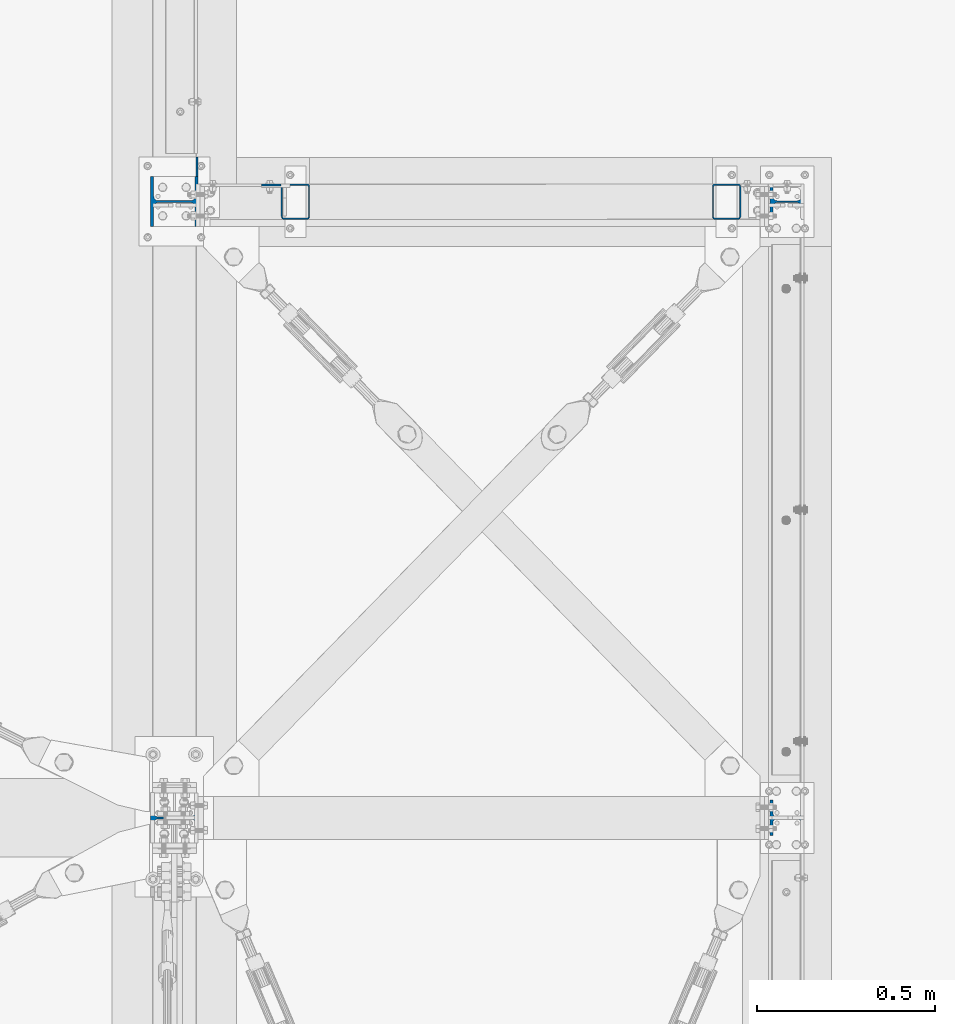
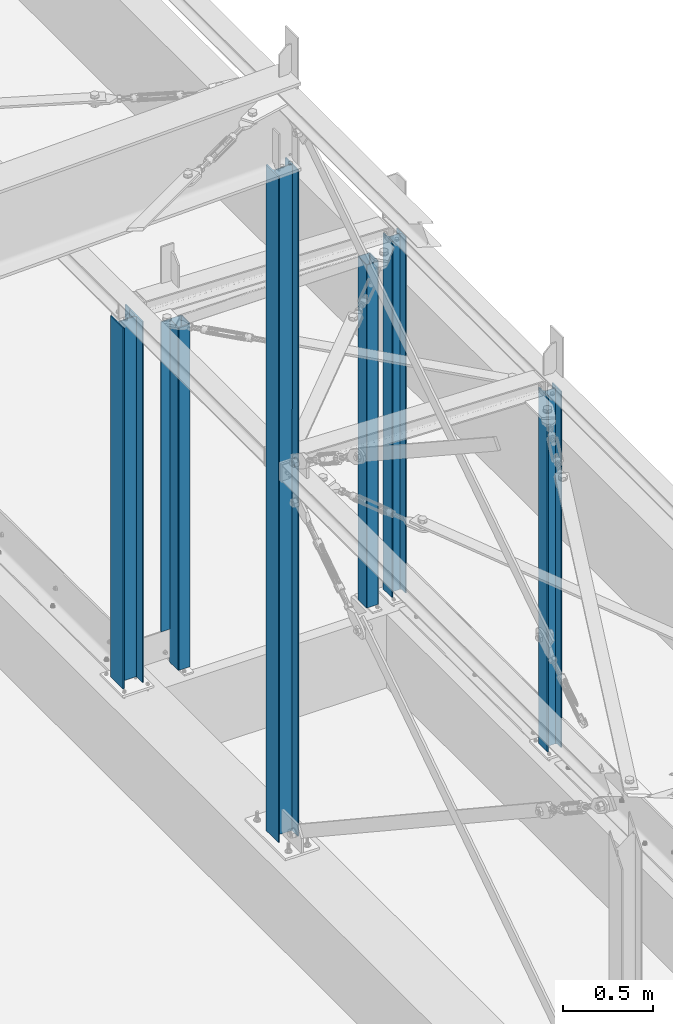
# One storey, part 5 of 476: 8 columns, 4 openings.
"""IFC2X3 building model written with IfcOpenShell, lengths in millimetres."""

from ifc_helpers import new_model, entity, si_unit, converted_unit, frame, origin, origin_with_axes, origin_2d, origin_2d_with_axis, place, context, project, spatial, rectangle, hollow_rectangle, circle, i_section, extrude, clip, halfspace, material, element, save


model = new_model("IFC2X3")

# Units and contexts
model_context = context("Model", 3, precision=1e-09, world=origin_with_axes())
ifc_project = project(units=[si_unit("LENGTHUNIT", "METRE", prefix="MILLI"), si_unit("AREAUNIT", "SQUARE_METRE"), si_unit("VOLUMEUNIT", "CUBIC_METRE"), converted_unit("PLANEANGLEUNIT", "DEGREE", entity("IfcPlaneAngleMeasure", 0.01745329), si_unit("PLANEANGLEUNIT", "RADIAN"), dimensions=[0, 0, 0, 0, 0, 0, 0])], contexts=[model_context])

# Site, building, storey
site_placement = place(None, origin_with_axes())
site = spatial("IfcSite", under=ifc_project, at=site_placement, Name="mKR Teilneubau & Sanierung BA1 - Ostfildern", CompositionType="ELEMENT")
building_placement = place(site_placement, origin_with_axes())
building = spatial("IfcBuilding", under=site, at=building_placement, Name="Struktur 1", CompositionType="ELEMENT")
storey_placement = place(building_placement, origin_with_axes())
storey = spatial("IfcBuildingStorey", under=building, at=storey_placement, Name="Default Storey", CompositionType="ELEMENT", Elevation=0.0)

# Column
ifc_material = material(Name="S235JR")
column_1_placement = place(None, frame((22238.107764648, -4171.67387897, 750.0), z_axis=(0.0, 0.0, 1.0), x_axis=(0.0, -1.0, 0.0)))
element("IfcColumn", 1, at=column_1_placement, inside=storey, material=ifc_material, Name="-", ObjectType="-", context=model_context, shape_type="SweptSolid", body=[
    extrude(rectangle(XDim=6.0, YDim=55.0, at=origin_2d()), origin(), (0.0, 0.0, 1.0), 2105.0),
])

# Column, openings
column_2_placement = place(None, frame((21965.608764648, -5948.67387897, 403.448200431), z_axis=(0.0, 0.0, -1.0), x_axis=(0.0, 1.0, 0.0)))
column_2 = element("IfcColumn", 2, at=column_2_placement, inside=storey, material=ifc_material, Name="-", ObjectType="-", context=model_context, shape_type="Clipping", body=[
    clip(clip(extrude(i_section(OverallWidth=140.0, OverallDepth=133.0, WebThickness=5.5, FlangeThickness=8.5, FilletRadius=12.0, at=origin_2d()), origin(), (0.0, 0.0, -1.0), 5082.024663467), halfspace(frame((5948.67387897, -21965.608764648, -141.552799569), z_axis=(0.0, 0.0, -1.0), x_axis=(0.0, 1.0, 0.0)), True)), halfspace(frame((5948.67387897, -22097.990220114, -4001.117455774), z_axis=(0.0, 0.030041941, 0.999548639), x_axis=(1.0, 0.0, 0.0)), True)),
])
opening_1_placement = place(column_2_placement, frame((35.0, 57.5, -2687.182613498), z_axis=(0.0, 1.0, 0.0), x_axis=(1.0, 0.0, 0.0)))
element("IfcOpeningElement", 3, at=opening_1_placement, cuts=column_2, ObjectType="Opening", context=model_context, shape_type="SweptSolid", body=[
    extrude(circle(Radius=7.001, at=origin_2d_with_axis()), origin(), (0.0, 0.0, 1.0), 9.5),
])
opening_2_placement = place(column_2_placement, frame((35.0, 57.5, -2637.182613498), z_axis=(0.0, 1.0, 0.0), x_axis=(1.0, 0.0, 0.0)))
element("IfcOpeningElement", 4, at=opening_2_placement, cuts=column_2, ObjectType="Opening", context=model_context, shape_type="SweptSolid", body=[
    extrude(circle(Radius=7.001, at=origin_2d_with_axis()), origin(), (0.0, 0.0, 1.0), 9.5),
])
opening_3_placement = place(column_2_placement, frame((-35.0, 57.5, -2687.182613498), z_axis=(0.0, 1.0, 0.0), x_axis=(-1.0, 0.0, 0.0)))
element("IfcOpeningElement", 5, at=opening_3_placement, cuts=column_2, ObjectType="Opening", context=model_context, shape_type="SweptSolid", body=[
    extrude(circle(Radius=7.001, at=origin_2d_with_axis()), origin(), (0.0, 0.0, 1.0), 9.5),
])
opening_4_placement = place(column_2_placement, frame((-35.0, 57.5, -2637.182613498), z_axis=(0.0, 1.0, 0.0), x_axis=(-1.0, 0.0, 0.0)))
element("IfcOpeningElement", 6, at=opening_4_placement, cuts=column_2, ObjectType="Opening", context=model_context, shape_type="SweptSolid", body=[
    extrude(circle(Radius=7.001, at=origin_2d_with_axis()), origin(), (0.0, 0.0, 1.0), 9.5),
])

# Columns
column_3_placement = place(None, frame((23685.608764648, -5948.67387897, 430.689106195), z_axis=(0.0, 0.0, -1.0), x_axis=(0.0, 1.0, 0.0)))
element("IfcColumn", 7, at=column_3_placement, inside=storey, material=ifc_material, Name="-", ObjectType="-", context=model_context, shape_type="Clipping", body=[
    clip(extrude(i_section(OverallWidth=100.0, OverallDepth=96.0, WebThickness=5.0, FlangeThickness=8.0, FilletRadius=12.0, at=origin_2d()), origin(), (0.0, 0.0, -1.0), 2527.310893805), halfspace(frame((5948.67387897, -23685.608764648, -109.311893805), z_axis=(0.0, 0.0, -1.0), x_axis=(0.0, 1.0, 0.0)), True)),
])
column_4_placement = place(None, frame((23685.608764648, -4218.67387897, 430.689106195), z_axis=(0.0, 0.0, -1.0), x_axis=(0.0, 1.0, 0.0)))
element("IfcColumn", 8, at=column_4_placement, inside=storey, material=ifc_material, Name="-", ObjectType="-", context=model_context, shape_type="Clipping", body=[
    clip(extrude(i_section(OverallWidth=100.0, OverallDepth=96.0, WebThickness=5.0, FlangeThickness=8.0, FilletRadius=12.0, at=origin_2d()), origin(), (0.0, 0.0, -1.0), 2527.310893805), halfspace(frame((4218.67387897, -23685.608764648, -109.311893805), z_axis=(0.0, 0.0, -1.0), x_axis=(0.0, 1.0, 0.0)), True)),
])
column_5_placement = place(None, frame((21965.608764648, -4218.67387897, 403.448200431), z_axis=(0.0, 0.0, -1.0), x_axis=(0.0, 1.0, 0.0)))
element("IfcColumn", 9, at=column_5_placement, inside=storey, material=ifc_material, Name="-", ObjectType="-", context=model_context, shape_type="Clipping", body=[
    clip(clip(extrude(i_section(OverallWidth=140.0, OverallDepth=133.0, WebThickness=5.5, FlangeThickness=8.5, FilletRadius=12.0, at=origin_2d()), origin(), (0.0, 0.0, -1.0), 2761.103616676), halfspace(frame((4218.67387897, -21965.608764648, -136.552799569), z_axis=(0.0, 0.0, -1.0), x_axis=(0.0, 1.0, 0.0)), True)), halfspace(frame((4218.67387897, -21965.608764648, -2587.550817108), z_axis=(0.0, 0.0, 1.0), x_axis=(0.0, -1.0, 0.0)), True)),
])
column_6_placement = place(None, frame((23515.609764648, -4218.67387897, 2855.0), z_axis=(0.0, 0.0, 1.0), x_axis=(1.0, 0.0, 0.0)))
element("IfcColumn", 10, at=column_6_placement, inside=storey, material=ifc_material, Name="-", ObjectType="-", context=model_context, shape_type="Clipping", body=[
    clip(extrude(hollow_rectangle(XDim=80.0, YDim=100.0, WallThickness=4.0, InnerFilletRadius=4.0, OuterFilletRadius=8.0, at=origin_2d()), origin(), (0.0, 0.0, -1.0), 2419.031242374), halfspace(frame((-23515.609764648, 4218.67387897, -2329.999), z_axis=(0.0, 0.0, 1.0), x_axis=(1.0, 0.0, 0.0)), True)),
])
column_7_placement = place(None, frame((22305.607764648, -4218.67387897, 2855.0), z_axis=(0.0, 0.0, -1.0), x_axis=(-1.0, 0.0, 0.0)))
element("IfcColumn", 11, at=column_7_placement, inside=storey, material=ifc_material, Name="-", ObjectType="-", context=model_context, shape_type="Clipping", body=[
    clip(extrude(hollow_rectangle(XDim=80.0, YDim=100.0, WallThickness=4.0, InnerFilletRadius=4.0, OuterFilletRadius=8.0, at=origin_2d()), origin(), (0.0, 0.0, 1.0), 2419.031242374), halfspace(frame((22305.607764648, 4218.67387897, 2329.999), z_axis=(0.0, 0.0, -1.0), x_axis=(-1.0, 0.0, 0.0)), True)),
])
column_8_placement = place(None, frame((22029.108764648, -4121.17387897, 636.249148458), z_axis=(0.0, 0.0, 1.0), x_axis=(-1.0, 0.0, 0.0)))
element("IfcColumn", 12, at=column_8_placement, inside=storey, material=ifc_material, Name="-", ObjectType="-", context=model_context, shape_type="SweptSolid", body=[
    extrude(rectangle(XDim=6.0, YDim=55.0, at=origin_2d()), origin(), (0.0, 0.0, 1.0), 2354.749869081),
])

save(model, "model.ifc")
